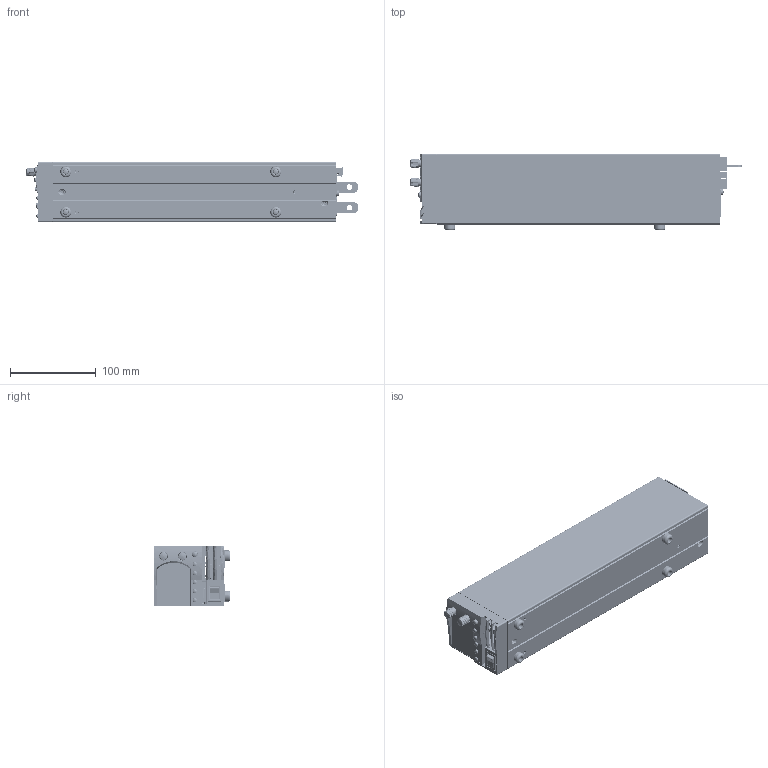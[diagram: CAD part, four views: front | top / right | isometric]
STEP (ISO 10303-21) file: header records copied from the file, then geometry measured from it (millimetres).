
FILE_DESCRIPTION (( 'STEP AP203' ), '1' );
FILE_NAME ('Z-Plus.STEP', '2011-02-28T07:50:16', ( 'a' ), ( '' ), 'SwSTEP 2.0', 'SolidWorks 2011', '' );
FILE_SCHEMA (( 'CONFIG_CONTROL_DESIGN' ));
Products named in the file (78): Z-Plus; IA702-32-01-00_MOUNT; PUSH RIVET P-3555_CLOSED RIVET; PUSH RIVET P3555 PART2; PUSH RIVET P3555 PART1; 720-KEYSTONE; Flush Fastener_PMM_PEM F-M4-1 ---C; IA702-32-01-01; IA704 Display ASSY_config 4; IA704-33-02_4_rev 1; LITEPIPE LMC 020 CTP; T8500 VBCL080; wire1-T8500 VBCL080; O-NSW2-REIK_Config 1; T8500 VB_1; KA-25; IA702-33-02; IA704-33-03; IA704-DISPLAY PCB ASSY_WITH ROUND KNOB; ICB275X2_27-FEB-2011; 2-215083-0X; 9-338069-0; alps encoder LA2114ESV; LED SMD GREEN 0603; TACT SWITCH; LED SML-012P8T GREEN; 7SEG-15x9; PCB1; IA704-33-01_FOR SMD; IA702-32-03_defoult; PCB CONTROL; IPD1-06-D; IPD1-06-D-X_Formula; IPL1-104-01-X-D-RA; T-1S64-XX-X_-10 -RA [IPL1]-1; T-1S64-XX-X_-09 -RA [IPL1]-1; IPL1-104-D-X-XX_Formula; IPL1-102-01-X-D-RA; T-1S64-XX-X_-10 -RA [IPL1]; T-1S64-XX-X_-09 -RA [IPL1]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
Assembly tree (156 placements, depth 4):
  Z-Plus
    IA702-32-01-00_MOUNT
      IA702-32-01-01
      PUSH RIVET P-3555_CLOSED RIVET  x4
        PUSH RIVET P3555 PART1
        PUSH RIVET P3555 PART2
      720-KEYSTONE  x4
      Flush Fastener_PMM_PEM F-M4-1 ---C  x3
    IA704 Display ASSY_config 4
      KA-25  x2
      T8500 VBCL080
        wire1-T8500 VBCL080  x2
        O-NSW2-REIK_Config 1
        T8500 VB_1
      IA704-DISPLAY PCB ASSY_WITH ROUND KNOB
        9-338069-0
        alps encoder LA2114ESV  x2
        TACT SWITCH  x6
        PCB1
        LED SMD GREEN 0603  x8
        7SEG-15x9  x8
        LED SML-012P8T GREEN  x2
        2-215083-0X
      IA704-33-02_4_rev 1  x2
      LITEPIPE LMC 020 CTP  x2
      IA704-33-01_FOR SMD
      IA702-33-02
      IA704-33-03
    IA702-32-03_defoult
    PCB CONTROL
      IPD1-06-D
        IPD1-06-D-X_Formula
        XC-179-XX-X-XX_Crimped  x12
      IPL1-104-01-X-D-RA
        T-1S64-XX-X_-09 -RA [IPL1]-1  x4
        T-1S64-XX-X_-10 -RA [IPL1]-1  x4
        IPL1-104-D-X-XX_Formula
      IA703-PCB CONTROL_LENGTH 290
      IPL1-102-01-X-D-RA
        T-1S64-XX-X_-10 -RA [IPL1]  x2
        IPL1-102-D-X-XX
        T-1S64-XX-X_-09 -RA [IPL1]  x2
      IPL1-106-01-X-D-RA
        T-1S64-XX-X_-10 -RA [IPL1]-2  x6
        T-1S64-XX-X_-09 -RA [IPL1]-2  x6
        IPL1-106-D-X-XX_No Pol
      IPD1-04-D
        XC-179-XX-X-XX_Crimped  x8
        IPD1-04-D
      IPD1-02-D
        XC-179-XX-X-XX_Crimped  x4
        IPD1-02-D
      IA703-PCB CONTROL 1 assy
        5-6605798-8-LAN
        SML-R1
        IA703-PCB CONTROL 1
        SML-R1-GREEN
      IA707-32-12  x2
      MODM-B-02-8P8C-L-S4
      USB-F-B-TH
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Bounding box: 387.3 x 89.5 x 70 mm (x, y, z)
Volume: 312465.3 mm3; surface area: 414266.3 mm2
Topology: 148 solids, 154 shells, 17267 faces, 45634 edges, 28731 vertices
Faces by surface type: plane 10076, cylinder 4471, bspline 1880, cone 555, torus 248, sphere 37
Entity records: 359450 total; most frequent: CARTESIAN_POINT 88989, ORIENTED_EDGE 56154, DIRECTION 50680, EDGE_CURVE 28077, LINE 21108, VECTOR 21108, VERTEX_POINT 18177, AXIS2_PLACEMENT_3D 14786
